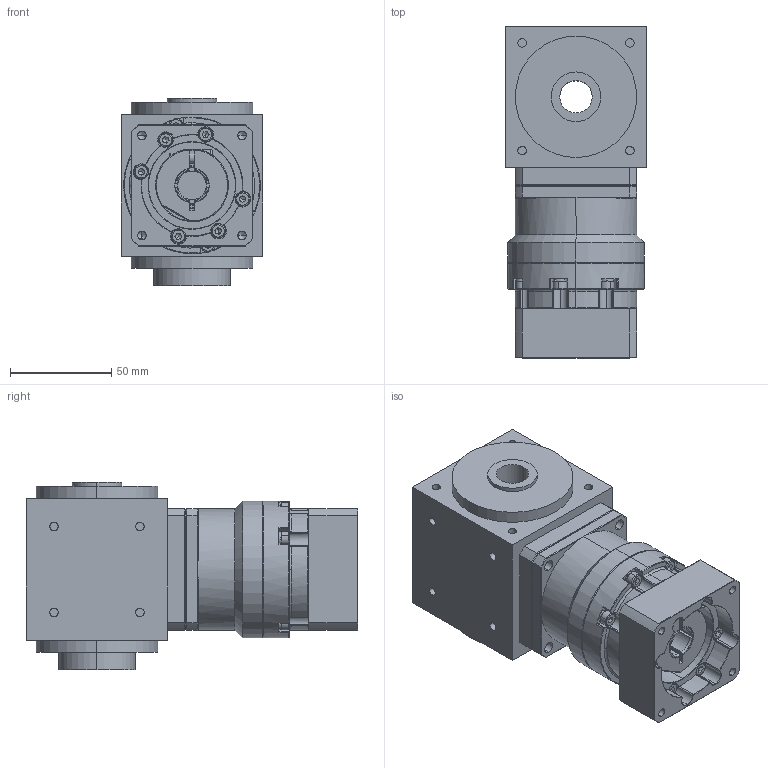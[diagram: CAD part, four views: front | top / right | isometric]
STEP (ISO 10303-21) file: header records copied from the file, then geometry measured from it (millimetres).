
FILE_DESCRIPTION (( 'STEP AP203' ), '1' );
FILE_NAME ('AAW070AS-L1-RF 14-50-70-M5.STEP', '2024-12-23T08:34:29', ( '' ), ( '' ), 'SwSTEP 2.0', 'SolidWorks 2021', '' );
FILE_SCHEMA (( 'CONFIG_CONTROL_DESIGN' ));
Length unit declared in the file: millimetre
Products named in the file (3): VRB-060-L1-S2-P1 14-50-70-M5; AAW070AS-L1-RF 14-50-70-M5
Assembly tree (2 placements, depth 2):
  AAW070AS-L1-RF 14-50-70-M5
    AAW070AS-L1-RF 14-50-70-M5
    VRB-060-L1-S2-P1 14-50-70-M5
Bounding box: 70 x 164 x 92.5 mm (x, y, z)
Volume: 614544.9 mm3; surface area: 104153.8 mm2
Topology: 32 solids, 32 shells, 1050 faces, 2531 edges, 1575 vertices
Faces by surface type: plane 418, cylinder 382, cone 188, torus 50, bspline 12
Entity records: 31426 total; most frequent: CARTESIAN_POINT 6394, DIRECTION 5496, ORIENTED_EDGE 4966, EDGE_CURVE 2483, AXIS2_PLACEMENT_3D 2198, VERTEX_POINT 1575, EDGE_LOOP 1172, CIRCLE 1155
